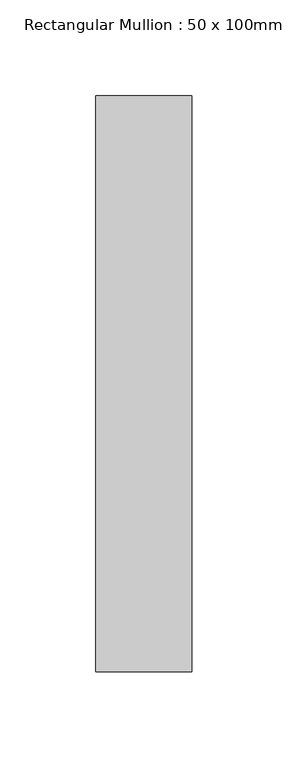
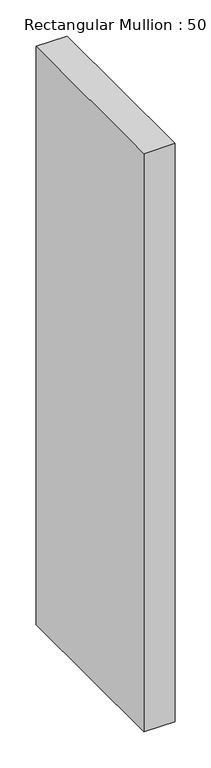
"""IFC4 building model written with IfcOpenShell, lengths in millimetres: member geometry, Rectangular Mullion : 50 x 100mm."""

from ifc_helpers import new_model, si_unit, frame, origin, place, context, project, spatial, polyline, outline, extrude, source, transform, mapped, element, save


def rectangular_mullion_50_x_100mm_8a0d84bc(model_context):
    return source(origin(), model_context, "Body", "SweptSolid", [
        extrude(outline(polyline([(0.0, 175.0), (0.0, -125.0), (-50.0, -125.0), (-50.0, 175.0), (0.0, 175.0)])), frame((0.0, 0.0, -980.0), z_axis=(0.0, 0.0, 1.0), x_axis=(1.0, 0.0, 0.0)), (0.0, 0.0, 1.0), 980.0),
    ])


if __name__ == "__main__":
    model = new_model("IFC4")
    model_context = context("Model", 3, world=origin())
    ifc_project = project(units=[si_unit("LENGTHUNIT", "METRE", prefix="MILLI")], contexts=[model_context])
    site = spatial("IfcSite", under=ifc_project)
    building = spatial("IfcBuilding", under=site)
    placement = place(None, origin())
    rectangular_mullion_50_x_100mm_shape = rectangular_mullion_50_x_100mm_8a0d84bc(model_context)
    element("IfcMember", 1, ObjectType="Rectangular Mullion : 50 x 100mm", at=placement, inside=building, context=model_context, shape_type="MappedRepresentation", body=[
        mapped(rectangular_mullion_50_x_100mm_shape, transform((0.0, 0.0, 0.0), x_axis=(1.0, 0.0, 0.0), y_axis=(0.0, 1.0, 0.0), z_axis=(0.0, 0.0, 1.0))),
    ])
    save(model, "model.ifc")
